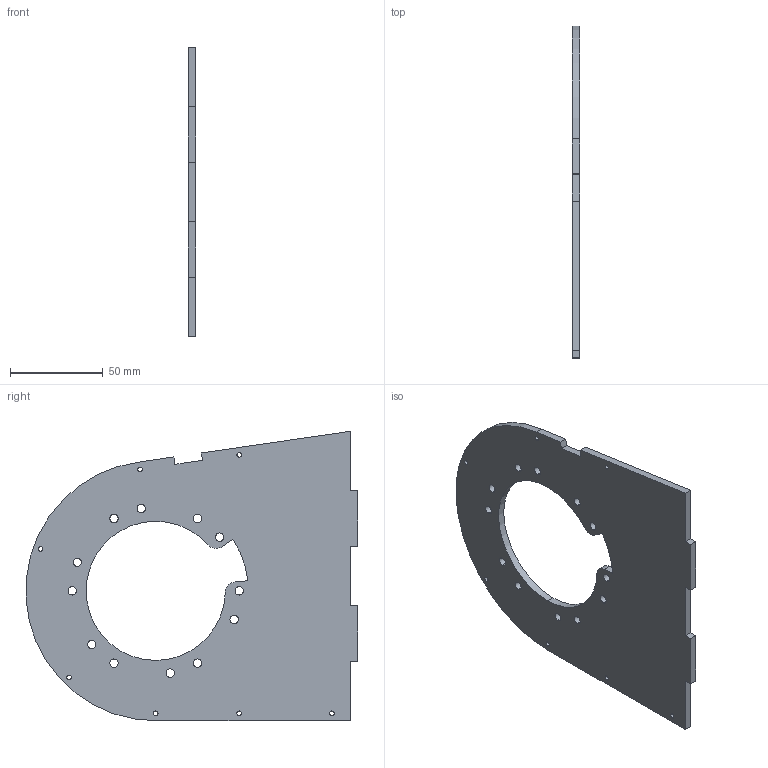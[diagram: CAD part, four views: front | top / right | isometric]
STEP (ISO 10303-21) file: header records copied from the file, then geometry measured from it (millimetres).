
FILE_DESCRIPTION (( 'STEP AP203' ), '1' );
FILE_NAME ('E-Mittelteil_Motor.STEP', '2026-04-21T19:38:35', ( '' ), ( '' ), 'SwSTEP 2.0', 'SolidWorks 2025', '' );
FILE_SCHEMA (( 'CONFIG_CONTROL_DESIGN' ));
Length unit declared in the file: millimetre
Products named in the file (1): E-Mittelteil_Motor
Bounding box: 4 x 178.86 x 156 mm (x, y, z)
Volume: 74167.2 mm3; surface area: 41476.5 mm2
Topology: 1 solids, 1 shells, 65 faces, 189 edges, 126 vertices
Faces by surface type: cylinder 46, plane 19
Entity records: 2352 total; most frequent: DIRECTION 413, CARTESIAN_POINT 381, ORIENTED_EDGE 378, EDGE_CURVE 189, AXIS2_PLACEMENT_3D 158, VERTEX_POINT 126, EDGE_LOOP 105, LINE 97
